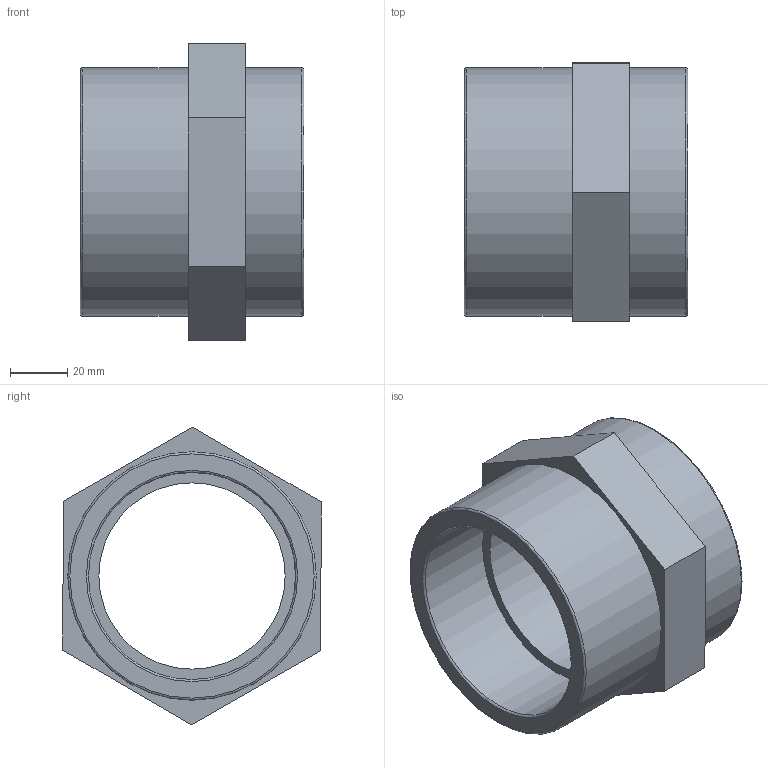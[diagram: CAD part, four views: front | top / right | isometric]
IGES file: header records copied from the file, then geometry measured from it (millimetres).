
Global section: file name: 050101025.ipt; native system: Autodesk Inventor 2015; preprocessor: unknown; author: KIM; date: 20171207.164044; units: millimetre
Bounding box: 78 x 90.15 x 103.92 mm (x, y, z)
Volume: 178369.4 mm3; surface area: 46355.5 mm2
Topology: 1 solids, 1 shells, 21 faces, 55 edges, 40 vertices
Faces by surface type: plane 12, revolution 7, cylinder 2
Full cylindrical faces by diameter (mm): 86.671 x2
